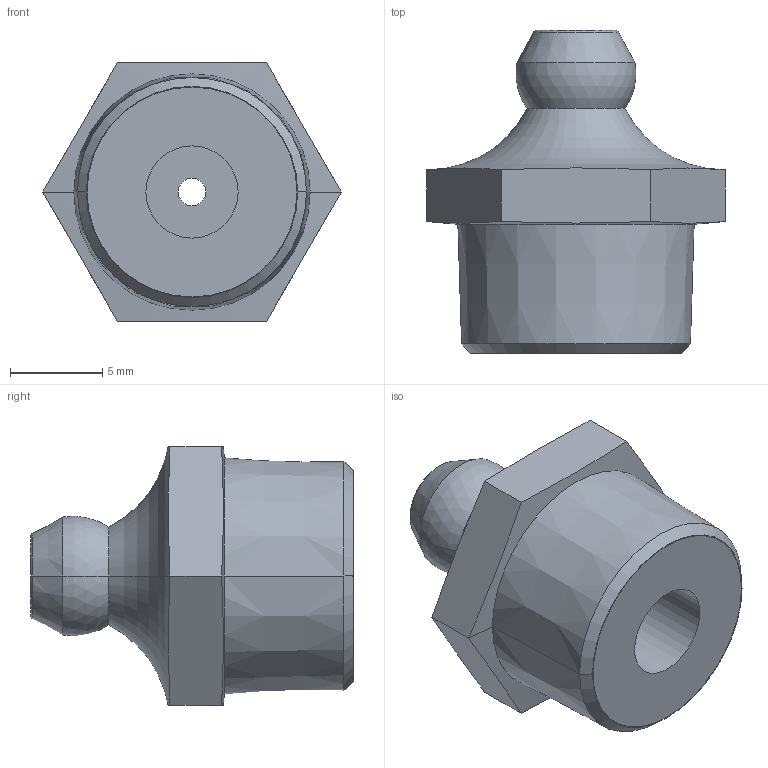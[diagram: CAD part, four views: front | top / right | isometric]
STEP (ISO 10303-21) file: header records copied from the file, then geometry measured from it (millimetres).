
FILE_DESCRIPTION((''),'2;1');
FILE_NAME('0022422','2018-04-16T09:43:23',('lpini'),(''),'CREO PARAMETRIC BY PTC INC, 2017380','CREO PARAMETRIC BY PTC INC, 2017380','');
FILE_SCHEMA(('CONFIG_CONTROL_DESIGN'));
Length unit declared in the file: millimetre
Products named in the file (1): 0022422
Bounding box: 16.17 x 17.5 x 14 mm (x, y, z)
Volume: 1505.1 mm3; surface area: 1290.1 mm2
Topology: 1 solids, 2 shells, 30 faces, 66 edges, 40 vertices
Faces by surface type: plane 10, cone 8, cylinder 6, torus 4, sphere 2
Entity records: 1004 total; most frequent: CARTESIAN_POINT 289, DIRECTION 150, ORIENTED_EDGE 128, EDGE_CURVE 66, AXIS2_PLACEMENT_3D 65, VERTEX_POINT 40, EDGE_LOOP 34, CIRCLE 34
